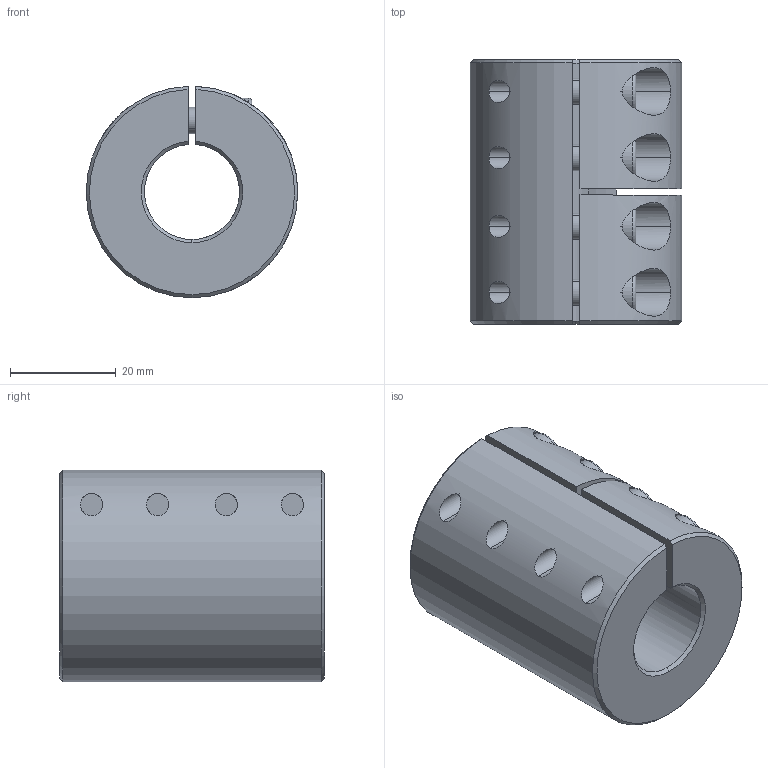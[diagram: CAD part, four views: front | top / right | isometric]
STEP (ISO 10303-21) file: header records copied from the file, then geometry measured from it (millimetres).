
FILE_DESCRIPTION (( 'STEP AP214' ), '1' );
FILE_NAME ('LL-B-D40L50-18-18½¨Ä£.STEP', '2022-07-22T00:27:15', ( '' ), ( '' ), 'SwSTEP 2.0', 'SolidWorks 2022', '' );
FILE_SCHEMA (( 'AUTOMOTIVE_DESIGN' ));
Length unit declared in the file: millimetre
Products named in the file (1): LL-B-D40L50-18-18膘耀
Bounding box: 40 x 50 x 39.99 mm (x, y, z)
Volume: 47273.8 mm3; surface area: 15361.6 mm2
Topology: 1 solids, 1 shells, 173 faces, 436 edges, 273 vertices
Faces by surface type: plane 83, cylinder 68, cone 14, torus 8
Entity records: 5707 total; most frequent: CARTESIAN_POINT 1459, DIRECTION 923, ORIENTED_EDGE 856, EDGE_CURVE 428, AXIS2_PLACEMENT_3D 361, VERTEX_POINT 273, EDGE_LOOP 205, LINE 201
